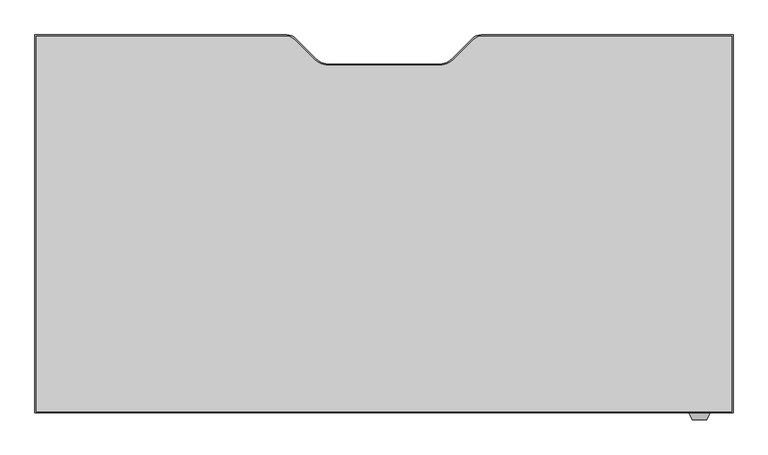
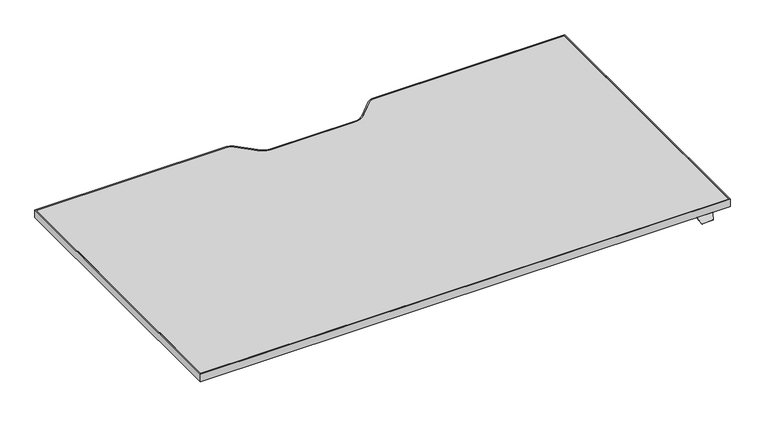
"""IFC4 building model written with IfcOpenShell, lengths in millimetres: furniture geometry, Steelcase Turnstone - Bivi - Height Adjustable Desk - T Base : 36D x 66.5W."""

from ifc_helpers import new_model, si_unit, point, frame, frame_2d, origin, place, context, project, spatial, polyline, circle_curve, trimmed, segment, composite_curve, outline, extrude, faceted_brep, source, transform, mapped, element, save


def furniture_24a3ddb2(model_context):
    return source(origin(), model_context, "Body", "SolidModel", [
        faceted_brep([(398.5677913, -554.7301693, 760.9984131), (398.5677913, -552.2074599, 760.9984131), (398.5677913, -552.2074599, 762.4), (398.5677913, -554.7490853, 762.4), (398.5677913, -556.0594921, 761.3004382), (398.5677913, -556.0594921, 759.8829789), (348.9948135, -554.7490853, 762.4), (348.9948135, -552.2074599, 762.4), (348.9948135, -552.2074599, 760.9984131), (348.9948135, -554.7301693, 760.9984131), (348.9948135, -556.0594921, 759.8829789), (348.9948135, -556.0594921, 761.3004382), (391.5858363, -571.0323429, 748.7367246), (355.9767685, -571.0323429, 748.7367246), (355.6173686, -570.2616074, 747.9659891), (391.9452362, -570.2616074, 747.9659891)], [[[0, 1, 2, 3, 4, 5]], [[6, 7, 8, 9, 10, 11]], [[12, 13, 14, 15]], [[9, 0, 5, 15, 14, 10]], [[1, 0, 9, 8]], [[2, 1, 8, 7]], [[3, 2, 7, 6]], [[3, 6, 11, 13, 12, 4]], [[5, 4, 12, 15]], [[11, 10, 14, 13]]]),
        extrude(outline(composite_curve([segment(polyline([(-1233.7785908, 359.6509147), (-623.9070191, 359.6509147)]), True, "CONTINUOUS"), segment(trimmed(circle_curve(frame_2d((-623.9070191, 330.9489147)), 28.702), [point((-623.9070191, 359.6509147))], [point((-603.6116402, 351.2442935))], False, "CARTESIAN"), True, "CONTINUOUS"), segment(polyline([(-603.6116402, 351.2442935), (-556.0972358, 303.7298891)]), True, "CONTINUOUS"), segment(trimmed(circle_curve(frame_2d((-520.1762113, 339.6509136)), 50.8), [point((-556.0972358, 303.7298891))], [point((-520.1762113, 288.8509136))], True, "CARTESIAN"), True, "CONTINUOUS"), segment(polyline([(-520.1762113, 288.8509136), (-258.2809703, 288.8509136)]), True, "CONTINUOUS"), segment(trimmed(circle_curve(frame_2d((-258.2809703, 339.6509136)), 50.8), [point((-258.2809703, 288.8509136))], [point((-222.3599458, 303.7298891))], True, "CARTESIAN"), True, "CONTINUOUS"), segment(polyline([(-222.3599458, 303.7298891), (-174.8455414, 351.2442935)]), True, "CONTINUOUS"), segment(trimmed(circle_curve(frame_2d((-154.5501625, 330.9489147)), 28.702), [point((-174.8455414, 351.2442935))], [point((-154.5501625, 359.6509147))], False, "CARTESIAN"), True, "CONTINUOUS"), segment(polyline([(-154.5501625, 359.6509147), (455.3214092, 359.6509147), (455.3214092, -554.7490853), (-1233.7785908, -554.7490853), (-1233.7785908, 359.6509147)]), True, "CONTINUOUS")], self_intersect=False), holes=[composite_curve([segment(polyline([(-1230.3987543, 356.3489147), (-1230.3987543, -551.4470853), (452.0194092, -551.4470853), (452.0194092, 356.3489147), (-154.5501625, 356.3489147)]), True, "CONTINUOUS"), segment(trimmed(circle_curve(frame_2d((-154.5501625, 330.9489147)), 25.4), [point((-154.5501625, 356.3489147))], [point((-172.5106748, 348.9094269))], True, "CARTESIAN"), True, "CONTINUOUS"), segment(polyline([(-172.5106748, 348.9094269), (-220.527602, 300.8924998)]), True, "CONTINUOUS"), segment(trimmed(circle_curve(frame_2d((-256.4486265, 336.8135242)), 50.8), [point((-220.527602, 300.8924998))], [point((-256.4486265, 286.0135242))], False, "CARTESIAN"), True, "CONTINUOUS"), segment(polyline([(-256.4486265, 286.0135242), (-389.2285908, 286.0135242), (-522.0085552, 286.0135242)]), True, "CONTINUOUS"), segment(trimmed(circle_curve(frame_2d((-522.0085552, 336.8135242)), 50.8), [point((-522.0085552, 286.0135242))], [point((-557.9295796, 300.8924998))], False, "CARTESIAN"), True, "CONTINUOUS"), segment(polyline([(-557.9295796, 300.8924998), (-605.9465068, 348.9094269)]), True, "CONTINUOUS"), segment(trimmed(circle_curve(frame_2d((-623.9070191, 330.9489147)), 25.4), [point((-605.9465068, 348.9094269))], [point((-623.9070191, 356.3489147))], True, "CARTESIAN"), True, "CONTINUOUS"), segment(polyline([(-623.9070191, 356.3489147), (-1230.3987543, 356.3489147)]), True, "CONTINUOUS")], self_intersect=False)]), frame((0.0, 0.0, 762.4), z_axis=(0.0, 0.0, 1.0), x_axis=(1.0, 0.0, 0.0)), (0.0, 0.0, 1.0), 25.0),
        extrude(outline(composite_curve([segment(polyline([(-1230.3987543, 356.3489147), (-623.9070191, 356.3489147)]), True, "CONTINUOUS"), segment(trimmed(circle_curve(frame_2d((-623.9070191, 330.9489147)), 25.4), [point((-623.9070191, 356.3489147))], [point((-605.9465068, 348.9094269))], False, "CARTESIAN"), True, "CONTINUOUS"), segment(polyline([(-605.9465068, 348.9094269), (-557.9295796, 300.8924998)]), True, "CONTINUOUS"), segment(trimmed(circle_curve(frame_2d((-522.0085552, 336.8135242)), 50.8), [point((-557.9295796, 300.8924998))], [point((-522.0085552, 286.0135242))], True, "CARTESIAN"), True, "CONTINUOUS"), segment(polyline([(-522.0085552, 286.0135242), (-389.2285908, 286.0135242), (-256.4486265, 286.0135242)]), True, "CONTINUOUS"), segment(trimmed(circle_curve(frame_2d((-256.4486265, 336.8135242)), 50.8), [point((-256.4486265, 286.0135242))], [point((-220.527602, 300.8924998))], True, "CARTESIAN"), True, "CONTINUOUS"), segment(polyline([(-220.527602, 300.8924998), (-172.5106748, 348.9094269)]), True, "CONTINUOUS"), segment(trimmed(circle_curve(frame_2d((-154.5501625, 330.9489147)), 25.4), [point((-172.5106748, 348.9094269))], [point((-154.5501625, 356.3489147))], False, "CARTESIAN"), True, "CONTINUOUS"), segment(polyline([(-154.5501625, 356.3489147), (452.0194092, 356.3489147), (452.0194092, -551.4470853), (-1230.3987543, -551.4470853), (-1230.3987543, 356.3489147)]), True, "CONTINUOUS")], self_intersect=False)), frame((0.0, 0.0, 762.4), z_axis=(0.0, 0.0, 1.0), x_axis=(1.0, 0.0, 0.0)), (0.0, 0.0, 1.0), 25.0),
    ])


if __name__ == "__main__":
    model = new_model("IFC4")
    model_context = context("Model", 3, world=origin())
    ifc_project = project(units=[si_unit("LENGTHUNIT", "METRE", prefix="MILLI")], contexts=[model_context])
    site = spatial("IfcSite", under=ifc_project)
    building = spatial("IfcBuilding", under=site)
    placement = place(None, origin())
    furniture_shape = furniture_24a3ddb2(model_context)
    element("IfcFurniture", 1, ObjectType="Steelcase Turnstone - Bivi - Height Adjustable Desk - T Base : 36D x 66.5W", at=placement, inside=building, context=model_context, shape_type="MappedRepresentation", body=[
        mapped(furniture_shape, transform((0.0, 0.0, 0.0), x_axis=(1.0, 0.0, 0.0), y_axis=(0.0, 1.0, 0.0), z_axis=(0.0, 0.0, 1.0))),
    ])
    save(model, "model.ifc")
